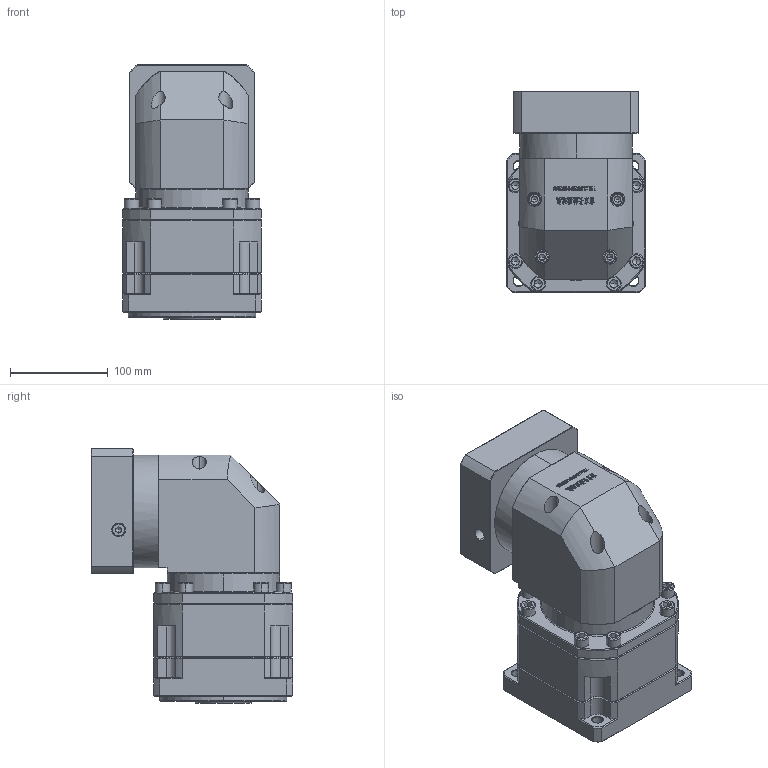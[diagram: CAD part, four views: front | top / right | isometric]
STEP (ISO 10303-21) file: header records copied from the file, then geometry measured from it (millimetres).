
FILE_DESCRIPTION (( 'STEP AP214' ), '1' );
FILE_NAME ('ZBR142A-K35-L2-24-110-145-M8.step', '2023-03-20T04:15:33', ( '' ), ( '' ), 'SwSTEP 2.0', 'SolidWorks 2016', '' );
FILE_SCHEMA (( 'AUTOMOTIVE_DESIGN' ));
Length unit declared in the file: millimetre
Products named in the file (1): ZBR142A-K35-L2-24-110-145-M8
Bounding box: 142 x 205.9 x 260.2 mm (x, y, z)
Volume: 4314854 mm3; surface area: 319152.5 mm2
Topology: 6 solids, 6 shells, 3132 faces, 8271 edges, 5306 vertices
Faces by surface type: plane 1645, bspline 585, cylinder 465, cone 393, torus 44
Entity records: 164214 total; most frequent: CARTESIAN_POINT 56690, ORIENTED_EDGE 16438, DIRECTION 12900, EDGE_CURVE 8219, LINE 5532, VECTOR 5532, VERTEX_POINT 5306, AXIS2_PLACEMENT_3D 3684
